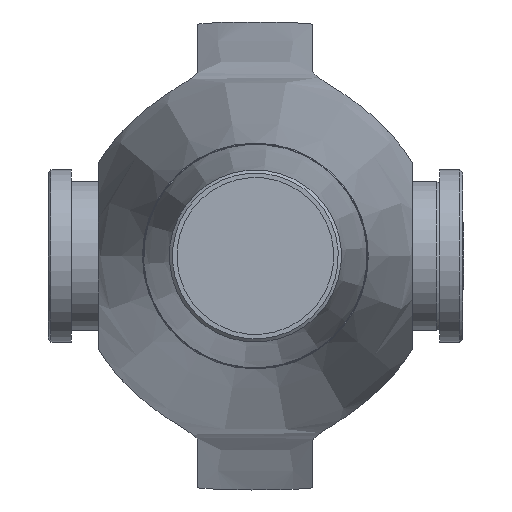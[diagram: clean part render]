
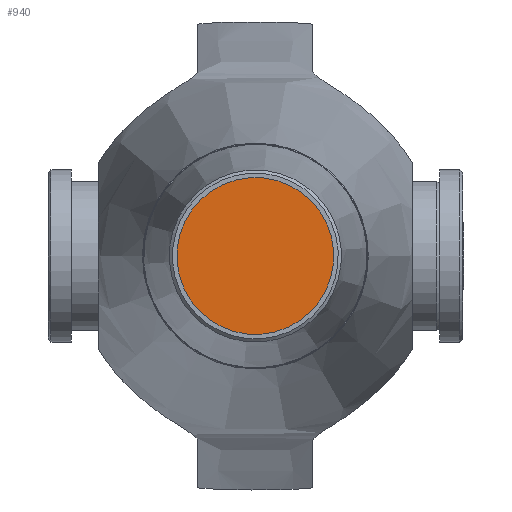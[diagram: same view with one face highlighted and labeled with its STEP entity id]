
A CAD part, left-side view. The second image highlights one B-rep face of the part: STEP entity #940.
In plain terms, the highlighted planar face has unit normal (-1, 0, 0).
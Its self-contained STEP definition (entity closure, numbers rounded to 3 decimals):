
#69=PLANE('',#1031);
#98=FACE_OUTER_BOUND('',#155,.T.);
#155=EDGE_LOOP('',(#619,#620));
#308=CIRCLE('',#1029,27.25);
#309=CIRCLE('',#1030,27.25);
#375=VERTEX_POINT('',#1456);
#376=VERTEX_POINT('',#1458);
#472=EDGE_CURVE('',#376,#375,#308,.T.);
#473=EDGE_CURVE('',#375,#376,#309,.T.);
#619=ORIENTED_EDGE('',*,*,#472,.T.);
#620=ORIENTED_EDGE('',*,*,#473,.T.);
#940=ADVANCED_FACE('',(#98),#69,.T.);
#1029=AXIS2_PLACEMENT_3D('',#1459,#1172,#1173);
#1030=AXIS2_PLACEMENT_3D('',#1460,#1174,#1175);
#1031=AXIS2_PLACEMENT_3D('',#1461,#1176,#1177);
#1172=DIRECTION('center_axis',(-1.,0.,0.));
#1173=DIRECTION('ref_axis',(0.,0.97,-0.243));
#1174=DIRECTION('center_axis',(-1.,0.,0.));
#1175=DIRECTION('ref_axis',(0.,0.97,-0.243));
#1176=DIRECTION('center_axis',(-1.,0.,0.));
#1177=DIRECTION('ref_axis',(0.,0.97,-0.243));
#1456=CARTESIAN_POINT('',(-545.,-6.633,-26.43));
#1458=CARTESIAN_POINT('',(-545.,6.633,26.43));
#1459=CARTESIAN_POINT('Origin',(-545.,0.,0.));
#1460=CARTESIAN_POINT('Origin',(-545.,0.,0.));
#1461=CARTESIAN_POINT('Origin',(-545.,0.,
0.));
